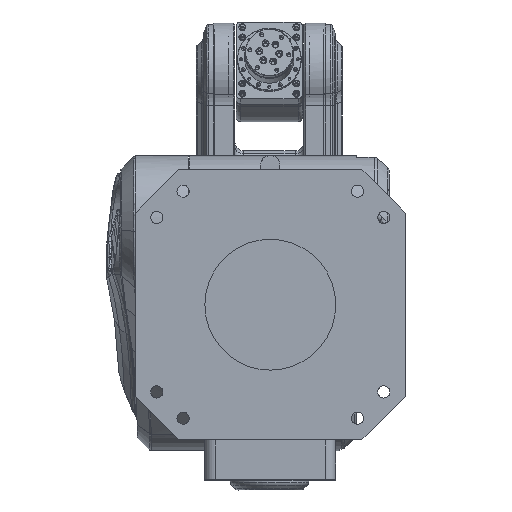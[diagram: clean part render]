
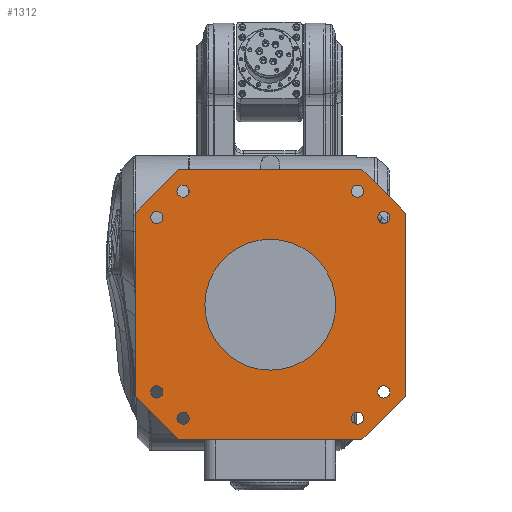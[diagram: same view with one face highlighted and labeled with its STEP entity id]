
A CAD part, front view. The second image highlights one B-rep face of the part: STEP entity #1312.
In plain terms, the highlighted planar face has unit normal (0, -1, 0).
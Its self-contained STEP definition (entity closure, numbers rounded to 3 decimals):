
#233=CARTESIAN_POINT('',(0.,0.,0.));
#234=DIRECTION('',(0.,-1.,0.));
#235=DIRECTION('',(1.,0.,0.));
#236=AXIS2_PLACEMENT_3D('',#233,#234,#235);
#238=CARTESIAN_POINT('',(0.,0.,0.));
#239=DIRECTION('',(0.,-1.,0.));
#240=DIRECTION('',(-1.,0.,0.));
#241=AXIS2_PLACEMENT_3D('',#238,#239,#240);
#243=CARTESIAN_POINT('',(-130.,0.,-100.));
#244=DIRECTION('',(0.,-1.,0.));
#245=DIRECTION('',(0.,0.,1.));
#246=AXIS2_PLACEMENT_3D('',#243,#244,#245);
#248=CARTESIAN_POINT('',(-130.,0.,-100.));
#249=DIRECTION('',(0.,-1.,0.));
#250=DIRECTION('',(0.,0.,-1.));
#251=AXIS2_PLACEMENT_3D('',#248,#249,#250);
#253=CARTESIAN_POINT('',(-100.,0.,-130.));
#254=DIRECTION('',(0.,-1.,0.));
#255=DIRECTION('',(0.,0.,1.));
#256=AXIS2_PLACEMENT_3D('',#253,#254,#255);
#258=CARTESIAN_POINT('',(-100.,0.,-130.));
#259=DIRECTION('',(0.,-1.,0.));
#260=DIRECTION('',(0.,0.,-1.));
#261=AXIS2_PLACEMENT_3D('',#258,#259,#260);
#263=CARTESIAN_POINT('',(-130.,0.,100.));
#264=DIRECTION('',(0.,-1.,0.));
#265=DIRECTION('',(0.,0.,1.));
#266=AXIS2_PLACEMENT_3D('',#263,#264,#265);
#268=CARTESIAN_POINT('',(-130.,0.,100.));
#269=DIRECTION('',(0.,-1.,0.));
#270=DIRECTION('',(0.,0.,-1.));
#271=AXIS2_PLACEMENT_3D('',#268,#269,#270);
#273=CARTESIAN_POINT('',(-100.,0.,130.));
#274=DIRECTION('',(0.,-1.,0.));
#275=DIRECTION('',(0.,0.,1.));
#276=AXIS2_PLACEMENT_3D('',#273,#274,#275);
#278=CARTESIAN_POINT('',(-100.,0.,130.));
#279=DIRECTION('',(0.,-1.,0.));
#280=DIRECTION('',(0.,0.,-1.));
#281=AXIS2_PLACEMENT_3D('',#278,#279,#280);
#283=CARTESIAN_POINT('',(100.,0.,130.));
#284=DIRECTION('',(0.,-1.,0.));
#285=DIRECTION('',(0.,0.,1.));
#286=AXIS2_PLACEMENT_3D('',#283,#284,#285);
#288=CARTESIAN_POINT('',(100.,0.,130.));
#289=DIRECTION('',(0.,-1.,0.));
#290=DIRECTION('',(0.,0.,-1.));
#291=AXIS2_PLACEMENT_3D('',#288,#289,#290);
#293=CARTESIAN_POINT('',(130.,0.,100.));
#294=DIRECTION('',(0.,-1.,0.));
#295=DIRECTION('',(0.,0.,1.));
#296=AXIS2_PLACEMENT_3D('',#293,#294,#295);
#298=CARTESIAN_POINT('',(130.,0.,100.));
#299=DIRECTION('',(0.,-1.,0.));
#300=DIRECTION('',(0.,0.,-1.));
#301=AXIS2_PLACEMENT_3D('',#298,#299,#300);
#303=CARTESIAN_POINT('',(130.,0.,-100.));
#304=DIRECTION('',(0.,-1.,0.));
#305=DIRECTION('',(0.,0.,1.));
#306=AXIS2_PLACEMENT_3D('',#303,#304,#305);
#308=CARTESIAN_POINT('',(130.,0.,-100.));
#309=DIRECTION('',(0.,-1.,0.));
#310=DIRECTION('',(0.,0.,-1.));
#311=AXIS2_PLACEMENT_3D('',#308,#309,#310);
#313=CARTESIAN_POINT('',(100.,0.,-130.));
#314=DIRECTION('',(0.,-1.,0.));
#315=DIRECTION('',(0.,0.,1.));
#316=AXIS2_PLACEMENT_3D('',#313,#314,#315);
#318=CARTESIAN_POINT('',(100.,0.,-130.));
#319=DIRECTION('',(0.,-1.,0.));
#320=DIRECTION('',(0.,0.,-1.));
#321=AXIS2_PLACEMENT_3D('',#318,#319,#320);
#323=DIRECTION('',(-0.707,0.,-0.707));
#324=VECTOR('',#323,70.711);
#325=CARTESIAN_POINT('',(-105.,0.,155.));
#326=LINE('',#325,#324);
#327=DIRECTION('',(-1.,0.,0.));
#328=VECTOR('',#327,210.);
#329=CARTESIAN_POINT('',(105.,0.,155.));
#330=LINE('',#329,#328);
#331=DIRECTION('',(-0.707,0.,0.707));
#332=VECTOR('',#331,70.711);
#333=CARTESIAN_POINT('',(155.,0.,105.));
#334=LINE('',#333,#332);
#335=DIRECTION('',(0.,0.,1.));
#336=VECTOR('',#335,210.);
#337=CARTESIAN_POINT('',(155.,0.,-105.));
#338=LINE('',#337,#336);
#339=DIRECTION('',(0.707,0.,0.707));
#340=VECTOR('',#339,70.711);
#341=CARTESIAN_POINT('',(105.,0.,-155.));
#342=LINE('',#341,#340);
#343=DIRECTION('',(1.,0.,0.));
#344=VECTOR('',#343,210.);
#345=CARTESIAN_POINT('',(-105.,0.,-155.));
#346=LINE('',#345,#344);
#347=DIRECTION('',(0.707,0.,-0.707));
#348=VECTOR('',#347,70.711);
#349=CARTESIAN_POINT('',(-155.,0.,-105.));
#350=LINE('',#349,#348);
#351=DIRECTION('',(0.,0.,-1.));
#352=VECTOR('',#351,210.);
#353=CARTESIAN_POINT('',(-155.,0.,105.));
#354=LINE('',#353,#352);
#845=CARTESIAN_POINT('',(-130.,0.,-93.));
#846=CARTESIAN_POINT('',(-130.,0.,-107.));
#847=VERTEX_POINT('',#845);
#848=VERTEX_POINT('',#846);
#849=CARTESIAN_POINT('',(75.,0.,0.));
#850=CARTESIAN_POINT('',(-75.,0.,0.));
#851=VERTEX_POINT('',#849);
#852=VERTEX_POINT('',#850);
#853=CARTESIAN_POINT('',(-100.,0.,-123.));
#854=CARTESIAN_POINT('',(-100.,0.,-137.));
#855=VERTEX_POINT('',#853);
#856=VERTEX_POINT('',#854);
#857=CARTESIAN_POINT('',(-130.,0.,107.));
#858=CARTESIAN_POINT('',(-130.,0.,93.));
#859=VERTEX_POINT('',#857);
#860=VERTEX_POINT('',#858);
#861=CARTESIAN_POINT('',(-100.,0.,137.));
#862=CARTESIAN_POINT('',(-100.,0.,123.));
#863=VERTEX_POINT('',#861);
#864=VERTEX_POINT('',#862);
#865=CARTESIAN_POINT('',(100.,0.,137.));
#866=CARTESIAN_POINT('',(100.,0.,123.));
#867=VERTEX_POINT('',#865);
#868=VERTEX_POINT('',#866);
#869=CARTESIAN_POINT('',(130.,0.,107.));
#870=CARTESIAN_POINT('',(130.,0.,93.));
#871=VERTEX_POINT('',#869);
#872=VERTEX_POINT('',#870);
#873=CARTESIAN_POINT('',(130.,0.,-93.));
#874=CARTESIAN_POINT('',(130.,0.,-107.));
#875=VERTEX_POINT('',#873);
#876=VERTEX_POINT('',#874);
#877=CARTESIAN_POINT('',(100.,0.,-123.));
#878=CARTESIAN_POINT('',(100.,0.,-137.));
#879=VERTEX_POINT('',#877);
#880=VERTEX_POINT('',#878);
#977=CARTESIAN_POINT('',(-105.,0.,155.));
#978=VERTEX_POINT('',#977);
#979=CARTESIAN_POINT('',(-155.,0.,105.));
#980=VERTEX_POINT('',#979);
#985=CARTESIAN_POINT('',(-155.,0.,-105.));
#986=VERTEX_POINT('',#985);
#987=CARTESIAN_POINT('',(-105.,0.,-155.));
#988=VERTEX_POINT('',#987);
#993=CARTESIAN_POINT('',(105.,0.,-155.));
#994=VERTEX_POINT('',#993);
#995=CARTESIAN_POINT('',(155.,0.,-105.));
#996=VERTEX_POINT('',#995);
#1001=CARTESIAN_POINT('',(155.,0.,105.));
#1002=VERTEX_POINT('',#1001);
#1003=CARTESIAN_POINT('',(105.,0.,155.));
#1004=VERTEX_POINT('',#1003);
#1236=CARTESIAN_POINT('',(0.,0.,0.));
#1237=DIRECTION('',(0.,1.,0.));
#1238=DIRECTION('',(1.,0.,0.));
#1239=AXIS2_PLACEMENT_3D('',#1236,#1237,#1238);
#1240=PLANE('',#1239);
#1242=ORIENTED_EDGE('',*,*,#1241,.F.);
#1244=ORIENTED_EDGE('',*,*,#1243,.F.);
#1246=ORIENTED_EDGE('',*,*,#1245,.F.);
#1248=ORIENTED_EDGE('',*,*,#1247,.F.);
#1250=ORIENTED_EDGE('',*,*,#1249,.F.);
#1252=ORIENTED_EDGE('',*,*,#1251,.F.);
#1254=ORIENTED_EDGE('',*,*,#1253,.F.);
#1256=ORIENTED_EDGE('',*,*,#1255,.F.);
#1257=EDGE_LOOP('',(#1242,#1244,#1246,#1248,#1250,#1252,#1254,#1256));
#1258=FACE_OUTER_BOUND('',#1257,.F.);
#1259=ORIENTED_EDGE('',*,*,#1226,.T.);
#1261=ORIENTED_EDGE('',*,*,#1260,.T.);
#1262=EDGE_LOOP('',(#1259,#1261));
#1263=FACE_BOUND('',#1262,.F.);
#1265=ORIENTED_EDGE('',*,*,#1264,.T.);
#1267=ORIENTED_EDGE('',*,*,#1266,.T.);
#1268=EDGE_LOOP('',(#1265,#1267));
#1269=FACE_BOUND('',#1268,.F.);
#1271=ORIENTED_EDGE('',*,*,#1270,.T.);
#1273=ORIENTED_EDGE('',*,*,#1272,.T.);
#1274=EDGE_LOOP('',(#1271,#1273));
#1275=FACE_BOUND('',#1274,.F.);
#1277=ORIENTED_EDGE('',*,*,#1276,.T.);
#1279=ORIENTED_EDGE('',*,*,#1278,.T.);
#1280=EDGE_LOOP('',(#1277,#1279));
#1281=FACE_BOUND('',#1280,.F.);
#1283=ORIENTED_EDGE('',*,*,#1282,.T.);
#1285=ORIENTED_EDGE('',*,*,#1284,.T.);
#1286=EDGE_LOOP('',(#1283,#1285));
#1287=FACE_BOUND('',#1286,.F.);
#1289=ORIENTED_EDGE('',*,*,#1288,.T.);
#1291=ORIENTED_EDGE('',*,*,#1290,.T.);
#1292=EDGE_LOOP('',(#1289,#1291));
#1293=FACE_BOUND('',#1292,.F.);
#1295=ORIENTED_EDGE('',*,*,#1294,.T.);
#1297=ORIENTED_EDGE('',*,*,#1296,.T.);
#1298=EDGE_LOOP('',(#1295,#1297));
#1299=FACE_BOUND('',#1298,.F.);
#1301=ORIENTED_EDGE('',*,*,#1300,.T.);
#1303=ORIENTED_EDGE('',*,*,#1302,.T.);
#1304=EDGE_LOOP('',(#1301,#1303));
#1305=FACE_BOUND('',#1304,.F.);
#1307=ORIENTED_EDGE('',*,*,#1306,.T.);
#1309=ORIENTED_EDGE('',*,*,#1308,.T.);
#1310=EDGE_LOOP('',(#1307,#1309));
#1311=FACE_BOUND('',#1310,.F.);
#1312=ADVANCED_FACE('',(#1258,#1263,#1269,#1275,#1281,#1287,#1293,#1299,#1305,
#1311),#1240,.F.);
#237=CIRCLE('',#236,75.);
#242=CIRCLE('',#241,75.);
#247=CIRCLE('',#246,7.);
#252=CIRCLE('',#251,7.);
#257=CIRCLE('',#256,7.);
#262=CIRCLE('',#261,7.);
#267=CIRCLE('',#266,7.);
#272=CIRCLE('',#271,7.);
#277=CIRCLE('',#276,7.);
#282=CIRCLE('',#281,7.);
#287=CIRCLE('',#286,7.);
#292=CIRCLE('',#291,7.);
#297=CIRCLE('',#296,7.);
#302=CIRCLE('',#301,7.);
#307=CIRCLE('',#306,7.);
#312=CIRCLE('',#311,7.);
#317=CIRCLE('',#316,7.);
#322=CIRCLE('',#321,7.);
#1226=EDGE_CURVE('',#847,#848,#247,.T.);
#1241=EDGE_CURVE('',#978,#980,#326,.T.);
#1243=EDGE_CURVE('',#1004,#978,#330,.T.);
#1245=EDGE_CURVE('',#1002,#1004,#334,.T.);
#1247=EDGE_CURVE('',#996,#1002,#338,.T.);
#1249=EDGE_CURVE('',#994,#996,#342,.T.);
#1251=EDGE_CURVE('',#988,#994,#346,.T.);
#1253=EDGE_CURVE('',#986,#988,#350,.T.);
#1255=EDGE_CURVE('',#980,#986,#354,.T.);
#1260=EDGE_CURVE('',#848,#847,#252,.T.);
#1264=EDGE_CURVE('',#855,#856,#257,.T.);
#1266=EDGE_CURVE('',#856,#855,#262,.T.);
#1270=EDGE_CURVE('',#859,#860,#267,.T.);
#1272=EDGE_CURVE('',#860,#859,#272,.T.);
#1276=EDGE_CURVE('',#863,#864,#277,.T.);
#1278=EDGE_CURVE('',#864,#863,#282,.T.);
#1282=EDGE_CURVE('',#867,#868,#287,.T.);
#1284=EDGE_CURVE('',#868,#867,#292,.T.);
#1288=EDGE_CURVE('',#871,#872,#297,.T.);
#1290=EDGE_CURVE('',#872,#871,#302,.T.);
#1294=EDGE_CURVE('',#875,#876,#307,.T.);
#1296=EDGE_CURVE('',#876,#875,#312,.T.);
#1300=EDGE_CURVE('',#879,#880,#317,.T.);
#1302=EDGE_CURVE('',#880,#879,#322,.T.);
#1306=EDGE_CURVE('',#851,#852,#237,.T.);
#1308=EDGE_CURVE('',#852,#851,#242,.T.);
